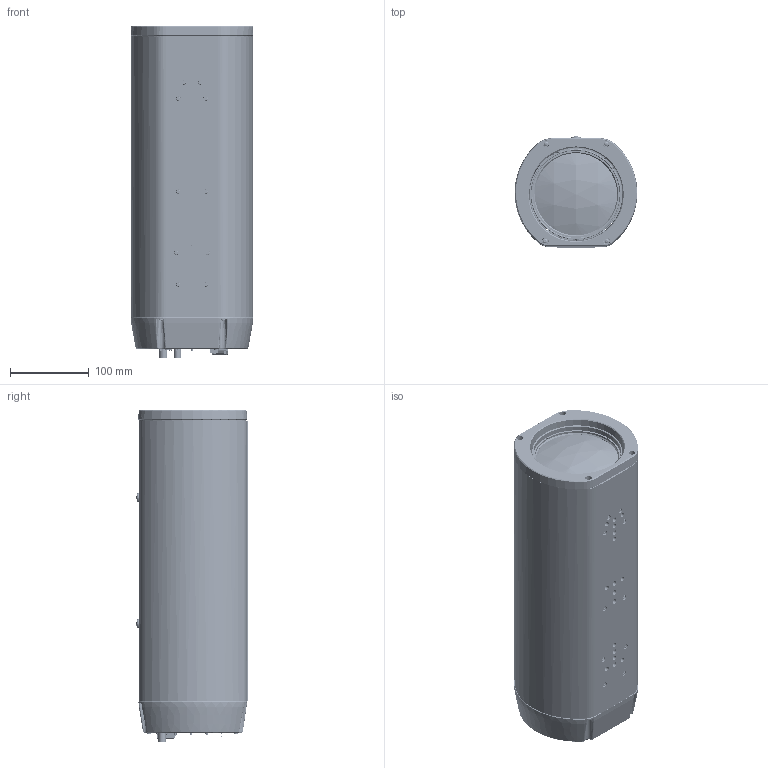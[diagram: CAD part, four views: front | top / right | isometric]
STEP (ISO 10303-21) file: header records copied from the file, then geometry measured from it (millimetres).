
FILE_DESCRIPTION (( 'STEP AP203' ), '1' );
FILE_NAME ('KX89-WW_gaikan_DATA.STEP', '2020-10-06T07:28:58', ( '' ), ( '' ), 'SwSTEP 2.0', 'SolidWorks 2019', '' );
FILE_SCHEMA (( 'CONFIG_CONTROL_DESIGN' ));
Length unit declared in the file: millimetre
Products named in the file (121): 110M300800Z_十字穴付きなべ小ねじ_gaikan; User Library-RES0402-2_2_SD_20190719_gaikan; User Library-RES0402-2_SD_20190719_gaikan; A_CABINET_BACK-C813B_1019_gaikan; User Library-RMS-001L-08A0-GY_SignalPin_V2.2_gaikan; cover_assy_1006; User Library-RMS-001L-08A0-GY_LEDpin_V2.2_gaikan; 691402910008b_15_V2.2_gaikan; 691322310002_1_V2.2_gaikan; BB00044465-101_押え環(G1A)_gaikan; A_PWB_TB1-C813A_1019_gaikan; BB00047753-202_Panel_Rear_CH_gaikan; SCREW_TRUSS_M2_5_gaikan; JW-S11RKK-C813A_1019_gaikan; CON1X2_3_81W_V2.2_gaikan; 691402910008b_6_V2.2_gaikan; HW-HDMI-Xacti_V2.2_gaikan; FIX63-63_SD_20190719_gaikan; sj2-35894d-smt-tr_1_V2.2_gaikan; 691402910008b_14_V2.2_gaikan; VO_HXSEJ14S_V2.2_gaikan; A_PWB_TB2-C813A_1019_gaikan; HW-HDMI-SD-X_V2_SD_20190719_gaikan; P2493-AAAA_1019_gaikan; 691322310002_2_V2.2_gaikan; 691402910008b_10_V2.2_gaikan; 691402910008b_21_V2.2_gaikan; 691402910008b_18_V2.2_gaikan; SC0402_SD_20190719_gaikan; 691402910008b_9_V2.2_gaikan; 691402910008b_13_V2.2_gaikan; SLI-343P8G3F-C813A_1019_gaikan; 691402910008b_30_V2.2_gaikan; SSGM640200-C813A_1019_gaikan; 691402910008b_31_V2.2_gaikan; 57283_V2.2_gaikan; SHDR-20V-S-B-C813A_1019_gaikan; TF_CARD-MISOSD_SD_20190719_gaikan; User Library-RES0402-2_4_SD_20190719_gaikan; cabinet_back-c813b_190718_CH_gaikan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
Assembly tree (182 placements, depth 8):
  KX89-WW_gaikan_DATA
    BF_前レンズ枠部_20180625_1_gaikan
      BB00044465-101_押え環(G1A)_gaikan
      GrA01_1_20180705_gaikan
        G1_20180705_gaikan
      BB00044464-102_前枠_gaikan
    assy_xacti_gaikan
      A_CABINET_BACK-C813B_1019_gaikan
        A_JW-S11RKK_AT219_1019_gaikan
          JW-S11RKK-C813A_1019_gaikan
        A_PWB_TB2-C813A_1019_gaikan
          PWB_TB2-C813A_1019_gaikan
          A_PUSH_SW-C813A_1019_gaikan
            SKHHAN-C813A_1019_gaikan  x7
            SKHHAL_1019_gaikan
          SSGM640200-C813A_1019_gaikan
          SLI-343P8G3F-C813A_1019_gaikan
          1AV4J10QY201G_C813A_1019_gaikan
          SHDR-20V-S-B-C813A_1019_gaikan
          1AV4D20B3470N-C71J1-C813A_1019_gaikan
          SPACER_SW_C813B_1019_gaikan
        COVER_CARD-C813B_1019_gaikan
        A_PWB_TB1-C813A_1019_gaikan
          P2493-AAAA_1019_gaikan
        SCREW_M3X5_NABE_1019_gaikan  x2
      SCREW_TRUSS_M2_5_gaikan  x8
      110M300800Z_十字穴付きなべ小ねじ_gaikan  x4
      110M301400Z_十字穴付きなべ小ねじ_gaikan  x10
      BB00047752-100_Cover_Front_gaikan
    BB00046088-100_テープ（グリーン）_gaikan
    BB00046665-100_銘板（法規制）_WW_gaikan
    Model_CH_gaikan
      Board_Assy_Xacti_gaikan
        HW-HDMI-SD-X_V2_SD_20190719_gaikan
          BOARD_SD_20190719_gaikan
          COMPONENTS_SD_20190719_gaikan
            TF_CARD-MISOSD_SD_20190719_gaikan
              TF-PUSH_1_SD_20190719_gaikan
            FIX63-63_SD_20190719_gaikan
            FIX79-63OB_SD_20190719_gaikan
            NON-ZF16-05_SD_20190719_gaikan
            SR0402_SD_20190719_gaikan
              User Library-RES0402-2_SD_20190719_gaikan
                User Library-RES0402-2_SD_20190719_gaikan
                User Library-RES0402-2_2_SD_20190719_gaikan
                User Library-RES0402-2_4_SD_20190719_gaikan
                User Library-RES0402-2_3_SD_20190719_gaikan
            SR0402_SD_20190719_gaikan
              User Library-RES0402-2_SD_20190719_gaikan
                User Library-RES0402-2_SD_20190719_gaikan
                User Library-RES0402-2_2_SD_20190719_gaikan
                User Library-RES0402-2_4_SD_20190719_gaikan
                User Library-RES0402-2_3_SD_20190719_gaikan
            SR0402_SD_20190719_gaikan
              User Library-RES0402-2_SD_20190719_gaikan
                User Library-RES0402-2_SD_20190719_gaikan
                User Library-RES0402-2_2_SD_20190719_gaikan
                User Library-RES0402-2_4_SD_20190719_gaikan
                User Library-RES0402-2_3_SD_20190719_gaikan
            SR0402_SD_20190719_gaikan
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Bounding box: 156.02 x 141.52 x 421.4 mm (x, y, z)
Volume: 333660.7 mm3; surface area: 616791.8 mm2
Topology: 137 solids, 209 shells, 13431 faces, 35494 edges, 22737 vertices
Faces by surface type: plane 7626, cylinder 3753, bspline 1166, cone 778, torus 100, sphere 8
Entity records: 368233 total; most frequent: CARTESIAN_POINT 114871, ORIENTED_EDGE 52502, DIRECTION 45323, EDGE_CURVE 26292, VECTOR 17427, LINE 17427, VERTEX_POINT 16996, AXIS2_PLACEMENT_3D 13948
